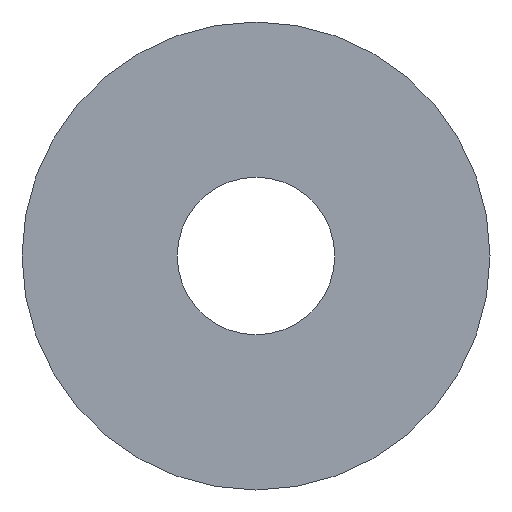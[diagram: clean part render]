
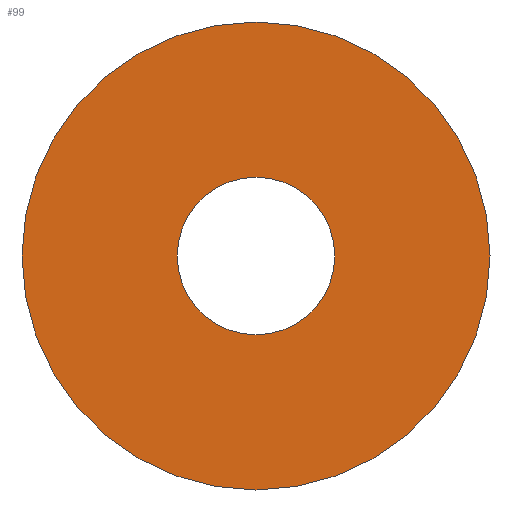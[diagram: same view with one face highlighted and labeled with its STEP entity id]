
A CAD part, front view. The second image highlights one B-rep face of the part: STEP entity #99.
In plain terms, the highlighted planar face has unit normal (0, -1, 0).
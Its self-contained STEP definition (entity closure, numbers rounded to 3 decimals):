
#15=FACE_BOUND('',#33,.T.);
#16=PLANE('',#136);
#26=FACE_OUTER_BOUND('',#32,.T.);
#32=EDGE_LOOP('',(#91));
#33=EDGE_LOOP('',(#92));
#44=CIRCLE('',#127,3.2);
#49=CIRCLE('',#135,9.5);
#52=VERTEX_POINT('',#179);
#56=VERTEX_POINT('',#193);
#61=EDGE_CURVE('',#52,#52,#44,.T.);
#68=EDGE_CURVE('',#56,#56,#49,.T.);
#91=ORIENTED_EDGE('',*,*,#68,.F.);
#92=ORIENTED_EDGE('',*,*,#61,.T.);
#99=ADVANCED_FACE('',(#26,#15),#16,.T.);
#127=AXIS2_PLACEMENT_3D('',#181,#149,#150);
#135=AXIS2_PLACEMENT_3D('',#195,#167,#168);
#136=AXIS2_PLACEMENT_3D('',#196,#169,#170);
#149=DIRECTION('center_axis',(0.,1.,0.));
#150=DIRECTION('ref_axis',(1.,0.,0.));
#167=DIRECTION('center_axis',(0.,1.,0.));
#168=DIRECTION('ref_axis',(1.,0.,0.));
#169=DIRECTION('center_axis',(0.,-1.,0.));
#170=DIRECTION('ref_axis',(0.,0.,-1.));
#179=CARTESIAN_POINT('',(-3.2,0.,0.));
#181=CARTESIAN_POINT('Origin',(0.,0.,0.));
#193=CARTESIAN_POINT('',(0.,0.,-9.5));
#195=CARTESIAN_POINT('Origin',(0.,0.,0.));
#196=CARTESIAN_POINT('Origin',(0.,0.,9.5));
